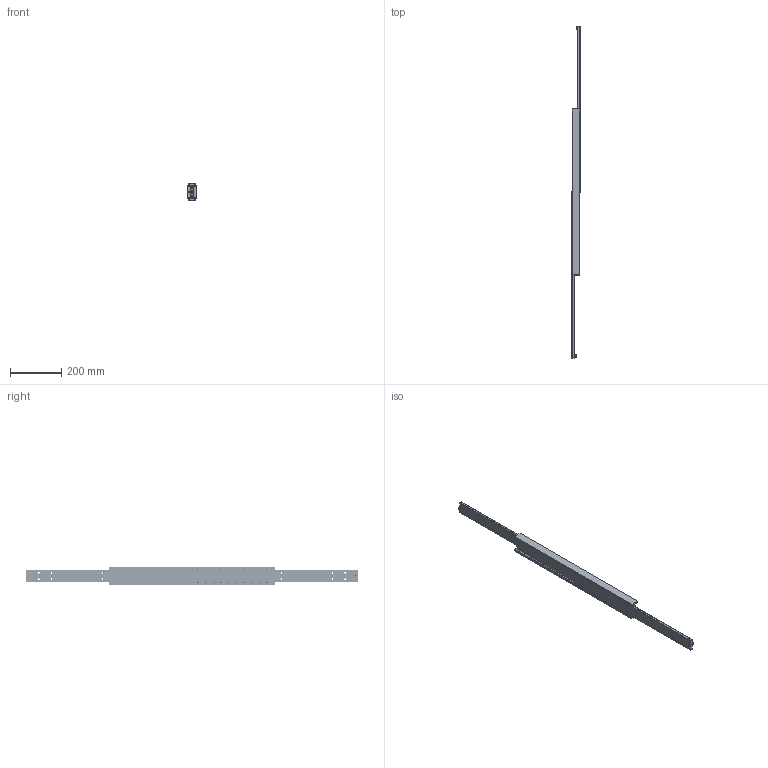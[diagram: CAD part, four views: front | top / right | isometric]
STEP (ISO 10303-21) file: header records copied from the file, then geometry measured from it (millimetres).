
FILE_DESCRIPTION(/* description */ (''),/* implementation_level */ '2;1');
FILE_NAME(/* name */ 'D:\Zeichnungen Schienen Komplett\MX-DTP70\MX-DTP70.065\MX-DTP70.065_ausgefahren.step',/* time_stamp */ '2022-08-30T09:19:55+02:00',/* author */ ('zmile'),/* organization */ (''),/* preprocessor_version */ 'ST-DEVELOPER v16.13',/* originating_system */ 'AutoCAD Mechanical',/* authorisation */ '');
FILE_SCHEMA (('AUTOMOTIVE_DESIGN { 1 0 10303 214 3 1 1 }'));
Products named in the file (1): Product
Bounding box: 32 x 1300 x 70 mm (x, y, z)
Volume: 1146332 mm3; surface area: 411761.4 mm2
Topology: 47 solids, 47 shells, 298 faces, 832 edges, 552 vertices
Faces by surface type: plane 86, bspline 86, cylinder 80, sphere 40, torus 6
Full cylindrical faces by diameter (mm): 9 x40, 13 x2
Entity records: 188313 total; most frequent: CARTESIAN_POINT 181527, ORIENTED_EDGE 1404, DIRECTION 1062, EDGE_CURVE 702, VERTEX_POINT 550, EDGE_LOOP 482, AXIS2_PLACEMENT_3D 425, FACE_OUTER_BOUND 298
